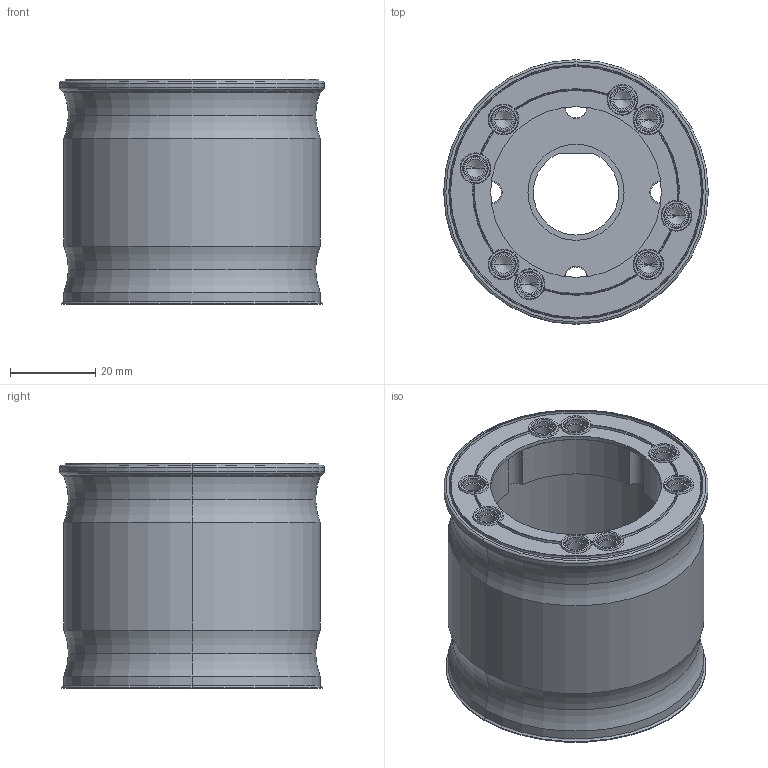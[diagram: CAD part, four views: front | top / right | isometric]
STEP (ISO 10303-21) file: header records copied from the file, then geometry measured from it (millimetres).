
FILE_DESCRIPTION (( 'STEP AP203' ), '1' );
FILE_NAME ('TXF_MT_03.step', '2023-10-10T17:26:48', ( '' ), ( '' ), 'SwSTEP 2.0', 'SolidWorks 2019', '' );
FILE_SCHEMA (( 'CONFIG_CONTROL_DESIGN' ));
Length unit declared in the file: millimetre
Products named in the file (1): TXF_MT_03
Bounding box: 62 x 62 x 52.9 mm (x, y, z)
Volume: 51469.5 mm3; surface area: 29300.7 mm2
Topology: 1 solids, 1 shells, 239 faces, 567 edges, 360 vertices
Faces by surface type: cone 102, cylinder 78, plane 41, torus 18
Entity records: 7142 total; most frequent: DIRECTION 1343, CARTESIAN_POINT 1323, ORIENTED_EDGE 1102, AXIS2_PLACEMENT_3D 596, EDGE_CURVE 551, VERTEX_POINT 360, CIRCLE 356, EDGE_LOOP 303
